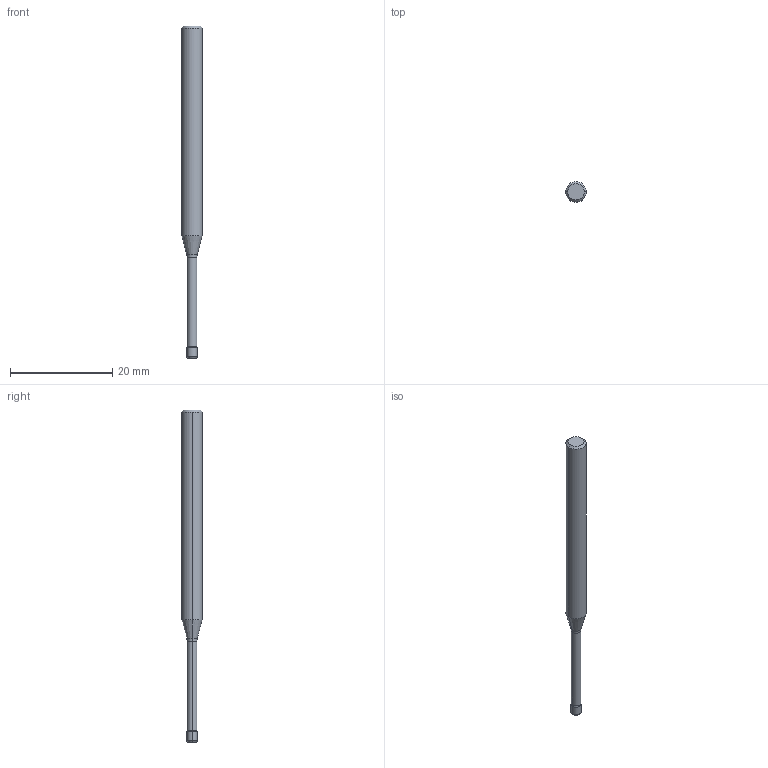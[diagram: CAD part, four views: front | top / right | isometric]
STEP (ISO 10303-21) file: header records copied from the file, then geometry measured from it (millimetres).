
FILE_DESCRIPTION (( 'STEP AP214' ), '1' );
FILE_NAME ('560.222.75_3D-model.step', '2022-02-18T16:11:43', ( '' ), ( '' ), 'SwSTEP 2.0', 'SolidWorks 2020', '' );
FILE_SCHEMA (( 'AUTOMOTIVE_DESIGN' ));
Length unit declared in the file: millimetre
Products named in the file (3): NOCUT-3D^Baugr97; 560.222.75_3D-model; CUT-3D^Baugr97
Assembly tree (2 placements, depth 2):
  560.222.75_3D-model
    CUT-3D^Baugr97
    NOCUT-3D^Baugr97
Bounding box: 4 x 4 x 65 mm (x, y, z)
Volume: 600.5 mm3; surface area: 692.2 mm2
Topology: 2 solids, 2 shells, 20 faces, 36 edges, 20 vertices
Faces by surface type: cylinder 6, cone 6, torus 4, plane 4
Entity records: 610 total; most frequent: DIRECTION 116, CARTESIAN_POINT 84, ORIENTED_EDGE 72, AXIS2_PLACEMENT_3D 52, EDGE_CURVE 36, CIRCLE 24, FACE_OUTER_BOUND 20, EDGE_LOOP 20
